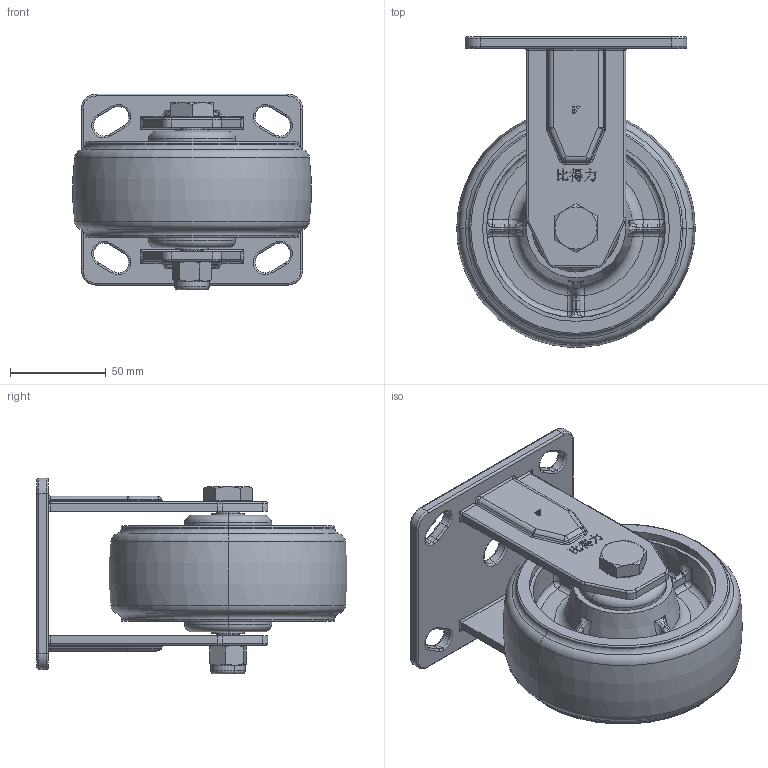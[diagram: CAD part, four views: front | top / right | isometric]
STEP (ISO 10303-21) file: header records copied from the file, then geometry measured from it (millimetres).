
FILE_DESCRIPTION (( 'STEP AP203' ), '1' );
FILE_NAME ('5寸不带刹车定向轮.STEP', '2023-02-20T09:42:35', ( 'amidn' ), ( '' ), 'SwSTEP 2.0', 'SolidWorks 2018', '' );
FILE_SCHEMA (( 'CONFIG_CONTROL_DESIGN' ));
Length unit declared in the file: millimetre
Products named in the file (6): 5渡笭婥倰 謫; 5渡笭婥倰嘐隅; 5寸不带刹车定向轮; 5渡笭婥倰 粣杶; high strength hex head bolt_din_DIN 6914 - M12 x 90 x 23-S; prevailing trq nut style 1 insert fine_din_DIN EN ISO 10512 - M12x1.5 - N
Assembly tree (5 placements, depth 2):
  5寸不带刹车定向轮
    5渡笭婥倰 謫
    5渡笭婥倰嘐隅
    5渡笭婥倰 粣杶
    prevailing trq nut style 1 insert fine_din_DIN EN ISO 10512 - M12x1.5 - N
    high strength hex head bolt_din_DIN 6914 - M12 x 90 x 23-S
Bounding box: 124.75 x 162.25 x 102.5 mm (x, y, z)
Volume: 501055.7 mm3; surface area: 135989.5 mm2
Topology: 7 solids, 7 shells, 919 faces, 2235 edges, 1332 vertices
Faces by surface type: cylinder 266, plane 260, bspline 173, torus 126, cone 90, sphere 4
Entity records: 35625 total; most frequent: CARTESIAN_POINT 14631, ORIENTED_EDGE 4410, DIRECTION 4097, EDGE_CURVE 2205, AXIS2_PLACEMENT_3D 1586, VERTEX_POINT 1332, EDGE_LOOP 975, VECTOR 925
